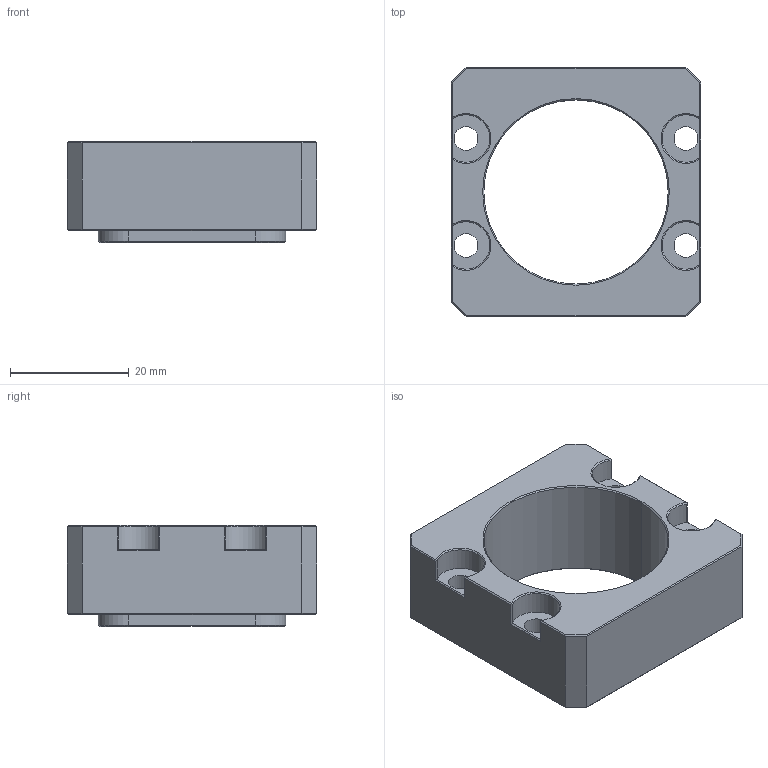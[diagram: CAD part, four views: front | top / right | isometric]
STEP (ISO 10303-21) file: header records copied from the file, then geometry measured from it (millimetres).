
FILE_DESCRIPTION((''),'2;1');
FILE_NAME('PI46','2017-05-26T',('Owner'),(''),'PRO/ENGINEER BY PARAMETRIC TECHNOLOGY CORPORATION, 2009440','PRO/ENGINEER BY PARAMETRIC TECHNOLOGY CORPORATION, 2009440','');
FILE_SCHEMA(('CONFIG_CONTROL_DESIGN'));
Length unit declared in the file: millimetre
Products named in the file (1): PI46
Bounding box: 42 x 42 x 17 mm (x, y, z)
Volume: 14113.3 mm3; surface area: 6853.4 mm2
Topology: 1 solids, 1 shells, 96 faces, 246 edges, 152 vertices
Faces by surface type: plane 58, cone 20, cylinder 18
Entity records: 2978 total; most frequent: CARTESIAN_POINT 596, ORIENTED_EDGE 492, DIRECTION 476, EDGE_CURVE 246, VECTOR 164, LINE 164, AXIS2_PLACEMENT_3D 156, VERTEX_POINT 152
